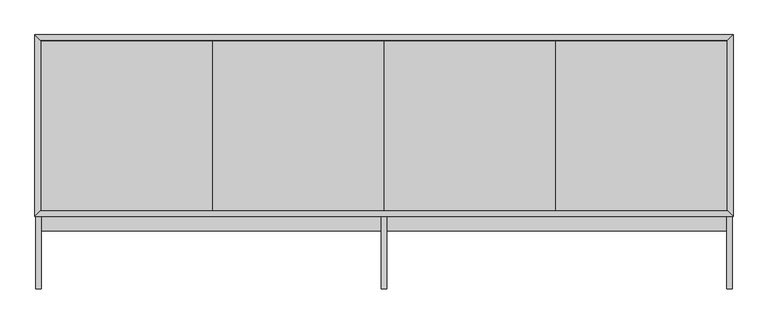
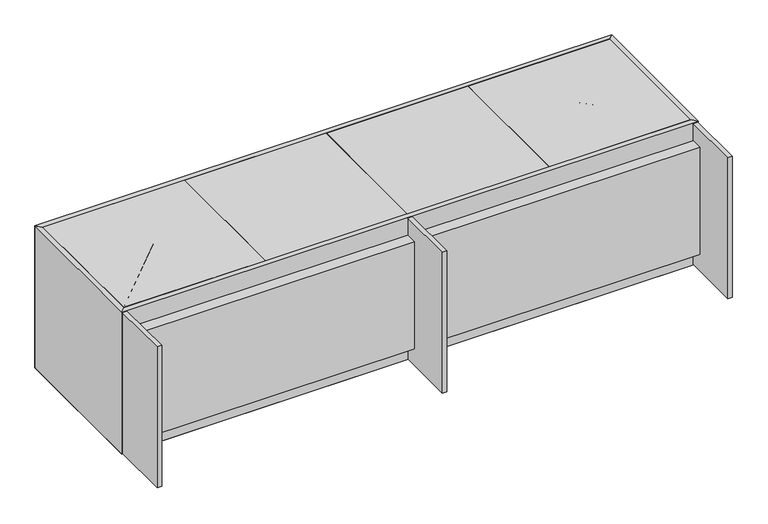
"""IFC4 building model written with IfcOpenShell, lengths in millimetres: proxy geometry, ELEVATE^CREDENZA 35h_25x96 4 DOOR-PARTS SOLID."""

from ifc_helpers import new_model, si_unit, frame, origin, place, context, project, spatial, polyline, outline, extrude, faceted_brep, source, transform, mapped, element, save


def generic_models_be555cd0(model_context):
    return source(origin(), model_context, "Body", "SolidModel", [
        faceted_brep([(0.0, 0.0, 0.0), (19.05, 19.05, 19.05), (2419.35, 19.05, 19.05), (2438.4, 0.0, 0.0), (19.05, 19.05, 635.0), (2419.35, 19.05, 635.0), (0.0, 0.0, 635.0), (2438.4, 0.0, 635.0)], [[[0, 1, 2, 3]], [[2, 1, 4, 5]], [[1, 0, 6, 4]], [[3, 2, 5, 7]], [[0, 3, 7, 6]], [[6, 7, 5, 4]]]),
        extrude(outline(polyline([(1819.8703125, 613.56875), (2416.96875, 613.56875), (2416.96875, 21.43125), (1819.8703125, 21.43125), (1819.8703125, 613.56875)])), frame((0.0, 0.0, 615.95), z_axis=(0.0, 0.0, 1.0), x_axis=(1.0, 0.0, 0.0)), (0.0, 0.0, 1.0), 19.05),
        faceted_brep([(2438.4, 635.0, 0.0), (2120.9, 317.5, 317.5), (2438.4, 0.0, 0.0), (0.0, 635.0, 0.0), (317.5, 317.5, 317.5), (0.0, 0.0, 0.0)], [[[0, 1, 2]], [[1, 0, 3, 4]], [[1, 4, 5, 2]], [[5, 3, 0, 2]], [[4, 3, 5]]]),
        extrude(outline(polyline([(21.43125, 613.56875), (618.5296875, 613.56875), (618.5296875, 21.43125), (21.43125, 21.43125), (21.43125, 613.56875)])), frame((0.0, 0.0, 615.95), z_axis=(0.0, 0.0, 1.0), x_axis=(1.0, 0.0, 0.0)), (0.0, 0.0, 1.0), 19.05),
        extrude(outline(polyline([(1220.390625, 613.56875), (1817.4890625, 613.56875), (1817.4890625, 21.43125), (1220.390625, 21.43125), (1220.390625, 613.56875)])), frame((0.0, 0.0, 615.95), z_axis=(0.0, 0.0, 1.0), x_axis=(1.0, 0.0, 0.0)), (0.0, 0.0, 1.0), 19.05),
        extrude(outline(polyline([(620.9109375, 613.56875), (1218.009375, 613.56875), (1218.009375, 21.43125), (620.9109375, 21.43125), (620.9109375, 613.56875)])), frame((0.0, 0.0, 615.95), z_axis=(0.0, 0.0, 1.0), x_axis=(1.0, 0.0, 0.0)), (0.0, 0.0, 1.0), 19.05),
        extrude(outline(polyline([(1833.5625, 19.05), (1814.5125, 19.05), (1814.5125, 615.95), (1833.5625, 615.95), (1833.5625, 19.05)])), frame((0.0, 0.0, 19.05), z_axis=(0.0, 0.0, 1.0), x_axis=(1.0, 0.0, 0.0)), (0.0, 0.0, 1.0), 593.725),
        faceted_brep([(1209.675, -254.0, 3.175), (1209.675, -254.0, 631.825), (1209.675, 0.0, 631.825), (1209.675, 0.0, 555.625), (1209.675, -50.8, 555.625), (1209.675, -50.8, 79.375), (1209.675, 0.0, 79.375), (1209.675, 0.0, 3.175), (1228.725, -254.0, 631.825), (1228.725, -254.0, 3.175), (1228.725, 0.0, 3.175), (1228.725, 0.0, 79.375), (1228.725, -50.8, 79.375), (1228.725, -50.8, 555.625), (1228.725, 0.0, 555.625), (1228.725, 0.0, 631.825), (2416.175, -254.0, 3.175), (2416.175, -254.0, 631.825), (2416.175, 0.0, 631.825), (2416.175, 0.0, 555.625), (2416.175, -50.8, 555.625), (2416.175, -50.8, 79.375), (2416.175, 0.0, 79.375), (2416.175, 0.0, 3.175), (2435.225, -254.0, 631.825), (2435.225, -254.0, 3.175), (2435.225, 0.0, 3.175), (2435.225, 0.0, 631.825), (3.175, -254.0, 3.175), (3.175, -254.0, 631.825), (3.175, 0.0, 631.825), (3.175, 0.0, 3.175), (22.225, -254.0, 631.825), (22.225, -254.0, 3.175), (22.225, 0.0, 3.175), (22.225, 0.0, 79.375), (22.225, -50.8, 79.375), (22.225, -50.8, 555.625), (22.225, 0.0, 555.625), (22.225, 0.0, 631.825)], [[[0, 1, 2, 3, 4, 5, 6, 7]], [[8, 9, 10, 11, 12, 13, 14, 15]], [[15, 2, 1, 8]], [[7, 10, 9, 0]], [[16, 17, 18, 19, 20, 21, 22, 23]], [[24, 25, 26, 27]], [[23, 26, 25, 16]], [[27, 18, 17, 24]], [[28, 29, 30, 31]], [[32, 33, 34, 35, 36, 37, 38, 39]], [[39, 30, 29, 32]], [[5, 4, 37, 36]], [[13, 12, 21, 20]], [[36, 35, 6, 5]], [[38, 3, 2, 15, 14, 19, 18, 27, 26, 23, 22, 11, 10, 7, 6, 35, 34, 31, 30, 39]], [[38, 37, 4, 3]], [[14, 13, 20, 19]], [[12, 11, 22, 21]], [[1, 0, 9, 8]], [[17, 16, 25, 24]], [[29, 28, 33, 32]], [[31, 34, 33, 28]]]),
        extrude(outline(polyline([(1228.725, 19.05), (1209.675, 19.05), (1209.675, 615.95), (1228.725, 615.95), (1228.725, 19.05)])), frame((0.0, 0.0, 19.05), z_axis=(0.0, 0.0, 1.0), x_axis=(1.0, 0.0, 0.0)), (0.0, 0.0, 1.0), 593.725),
        faceted_brep([(2438.4, 635.0, 635.0), (2120.9, 317.5, 635.0), (2438.4, 0.0, 635.0), (2438.4, 635.0, 0.0), (2120.9, 317.5, 317.5), (2438.4, 0.0, 0.0)], [[[0, 1, 2]], [[1, 0, 3, 4]], [[4, 3, 5]], [[5, 3, 0, 2]], [[1, 4, 5, 2]]]),
        faceted_brep([(2438.4, 635.0, 0.0), (2419.35, 615.95, 19.05), (19.05, 615.95, 19.05), (0.0, 635.0, 0.0), (19.05, 615.95, 635.0), (0.0, 635.0, 635.0), (2419.35, 615.95, 635.0), (2438.4, 635.0, 635.0)], [[[0, 1, 2, 3]], [[3, 2, 4, 5]], [[2, 1, 6, 4]], [[0, 3, 5, 7]], [[1, 0, 7, 6]], [[6, 7, 5, 4]]]),
        extrude(outline(polyline([(623.8875, 19.05), (604.8375, 19.05), (604.8375, 615.95), (623.8875, 615.95), (623.8875, 19.05)])), frame((0.0, 0.0, 19.05), z_axis=(0.0, 0.0, 1.0), x_axis=(1.0, 0.0, 0.0)), (0.0, 0.0, 1.0), 593.725),
        faceted_brep([(0.0, 0.0, 635.0), (317.5, 317.5, 635.0), (0.0, 635.0, 635.0), (0.0, 0.0, 0.0), (317.5, 317.5, 317.5), (0.0, 635.0, 0.0)], [[[0, 1, 2]], [[1, 0, 3, 4]], [[4, 3, 5]], [[1, 4, 5, 2]], [[5, 3, 0, 2]]]),
    ])


if __name__ == "__main__":
    model = new_model("IFC4")
    model_context = context("Model", 3, world=origin())
    ifc_project = project(units=[si_unit("LENGTHUNIT", "METRE", prefix="MILLI")], contexts=[model_context])
    site = spatial("IfcSite", under=ifc_project)
    building = spatial("IfcBuilding", under=site)
    placement = place(None, origin())
    generic_models_shape = generic_models_be555cd0(model_context)
    element("IfcBuildingElementProxy", 1, Name="ELEVATE^CREDENZA 35h_25x96 4 DOOR-PARTS SOLID", ObjectType="ELEVATE^CREDENZA 35h_25x96 4 DOOR-PARTS SOLID", at=placement, inside=building, context=model_context, shape_type="MappedRepresentation", body=[
        mapped(generic_models_shape, transform((0.0, 0.0, 0.0), x_axis=(1.0, 0.0, 0.0), y_axis=(0.0, 1.0, 0.0), z_axis=(0.0, 0.0, 1.0))),
    ])
    save(model, "model.ifc")
